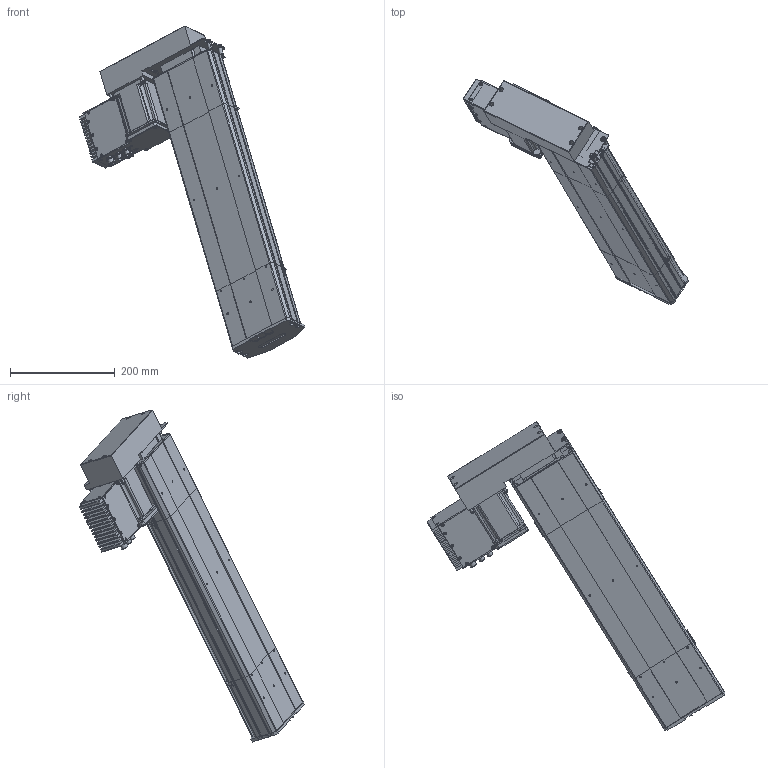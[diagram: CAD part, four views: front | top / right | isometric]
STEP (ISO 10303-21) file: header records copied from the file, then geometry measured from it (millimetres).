
FILE_DESCRIPTION (( 'STEP AP203' ), '1' );
FILE_NAME ('D14 TSH M4 BR L10 S350.STEP', '2012-10-10T13:48:45', ( '' ), ( '' ), 'SwSTEP 2.0', 'SolidWorks 2010', '' );
FILE_SCHEMA (( 'CONFIG_CONTROL_DESIGN' ));
Products named in the file (28): Sub D 9cts_2; couvercle D14 course L350_Default_2; corpl tail D14_Default_2; T犨e fond_2; Connecteur rond D10 3cts_2; Moteur 70BLDC90A_2; Colonnette_2; Radiateur_2; Embout raccord d14; plaque de maintient D14; D14 TSH M4 BR L10 S350; corp head D14_Default_2; plaque de  bout head D14 MD_Default_2; couvercle D14_Default_2; Moteur_2; T犨e contre le moteur_2; Tôle Arrière_2; Couvercle_2; Tôle latérale_2; Connecteur rond D12 4cts_2; Vis TF 3 torkx_2; corpl 350_Default_2; couvercle D14 head_Default_2; plaque de  bout tail D14_Default_2; Vis CHC M8; vis CHC M7; plaque de bout head d14 BR; vis CHC M5.5
Assembly tree (59 placements, depth 3):
  D14 TSH M4 BR L10 S350
    corpl 350_Default_2
    Moteur_2
      Tôle latérale_2  x2
      Connecteur rond D12 4cts_2
      Vis TF 3 torkx_2  x26
      Radiateur_2
      T犨e contre le moteur_2
      Connecteur rond D10 3cts_2  x2
      Moteur 70BLDC90A_2
      Colonnette_2
      Tôle Arrière_2
      Sub D 9cts_2
      Couvercle_2
      T犨e fond_2
    corp head D14_Default_2
    Embout raccord d14
      vis CHC M5.5  x4
      Vis CHC M8  x2
      vis CHC M7  x2
      plaque de bout head d14 BR
      plaque de maintient D14
    plaque de  bout head D14 MD_Default_2
    corpl tail D14_Default_2
    couvercle D14 head_Default_2
    couvercle D14 course L350_Default_2
    plaque de  bout tail D14_Default_2
    couvercle D14_Default_2
Bounding box: 430.66 x 430.1 x 633.83 mm (x, y, z)
Volume: 3021007.9 mm3; surface area: 882168.5 mm2
Topology: 79 solids, 79 shells, 2574 faces, 6649 edges, 4375 vertices
Faces by surface type: plane 1387, cylinder 891, cone 150, bspline 130, torus 16
Entity records: 68054 total; most frequent: CARTESIAN_POINT 21309, ORIENTED_EDGE 8972, DIRECTION 8674, EDGE_CURVE 4486, VECTOR 2982, LINE 2982, VERTEX_POINT 2961, AXIS2_PLACEMENT_3D 2846
